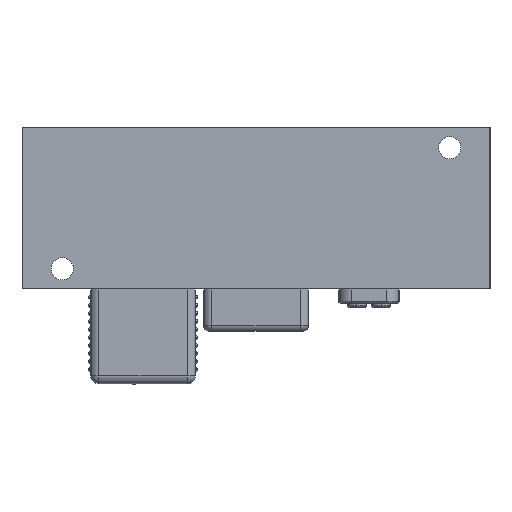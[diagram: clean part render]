
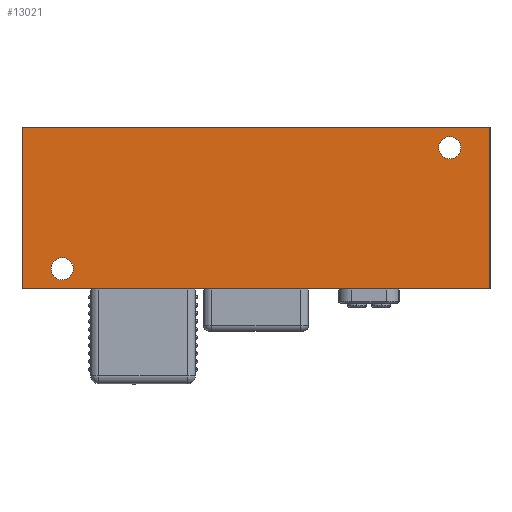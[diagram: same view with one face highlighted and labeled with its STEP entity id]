
A CAD part, front view. The second image highlights one B-rep face of the part: STEP entity #13021.
In plain terms, the highlighted planar face has unit normal (0, -1, 0).
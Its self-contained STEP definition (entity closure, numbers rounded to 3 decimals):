
#147 = CARTESIAN_POINT ( 'NONE',  ( -58., -22.5, -20. ) ) ;
#303 = LINE ( 'NONE', #6047, #20020 ) ;
#351 = CARTESIAN_POINT ( 'NONE',  ( 58., -22.5, -20. ) ) ;
#470 = EDGE_CURVE ( 'NONE', #5407, #5494, #5555, .T. ) ;
#744 = CARTESIAN_POINT ( 'NONE',  ( -58., -22.5, -20. ) ) ;
#787 = CARTESIAN_POINT ( 'NONE',  ( 58., -22.5, 20. ) ) ;
#819 = LINE ( 'NONE', #12599, #12562 ) ;
#1895 = CIRCLE ( 'NONE', #5023, 2.75 ) ;
#1967 = CARTESIAN_POINT ( 'NONE',  ( -58., -22.5, 20. ) ) ;
#2246 = VERTEX_POINT ( 'NONE', #147 ) ;
#2468 = CARTESIAN_POINT ( 'NONE',  ( 58., -22.5, 20. ) ) ;
#2493 = DIRECTION ( 'NONE',  ( 1., 0., 0. ) ) ;
#3235 = DIRECTION ( 'NONE',  ( 0., 0., 1. ) ) ;
#3770 = FACE_BOUND ( 'NONE', #19378, .T. ) ;
#4837 = CARTESIAN_POINT ( 'NONE',  ( -48., -22.5, -12.25 ) ) ;
#5023 = AXIS2_PLACEMENT_3D ( 'NONE', #15896, #6305, #3235 ) ;
#5407 = VERTEX_POINT ( 'NONE', #19366 ) ;
#5494 = VERTEX_POINT ( 'NONE', #8680 ) ;
#5555 = CIRCLE ( 'NONE', #7953, 2.75 ) ;
#5610 = ORIENTED_EDGE ( 'NONE', *, *, #18553, .F. ) ;
#5882 = VERTEX_POINT ( 'NONE', #4837 ) ;
#5979 = DIRECTION ( 'NONE',  ( 1., 0., 0. ) ) ;
#6047 = CARTESIAN_POINT ( 'NONE',  ( -58., -22.5, 20. ) ) ;
#6247 = DIRECTION ( 'NONE',  ( 0., 1., 0. ) ) ;
#6305 = DIRECTION ( 'NONE',  ( 0., 1., 0. ) ) ;
#6626 = VECTOR ( 'NONE', #2493, 1000. ) ;
#6870 = DIRECTION ( 'NONE',  ( 0., 1., 0. ) ) ;
#6995 = ORIENTED_EDGE ( 'NONE', *, *, #19666, .T. ) ;
#7027 = EDGE_LOOP ( 'NONE', ( #19207, #5610, #8584, #6995 ) ) ;
#7165 = ORIENTED_EDGE ( 'NONE', *, *, #13232, .T. ) ;
#7434 = CARTESIAN_POINT ( 'NONE',  ( -48., -22.5, -15. ) ) ;
#7953 = AXIS2_PLACEMENT_3D ( 'NONE', #17719, #14651, #8188 ) ;
#7982 = PLANE ( 'NONE',  #16716 ) ;
#8016 = FACE_OUTER_BOUND ( 'NONE', #7027, .T. ) ;
#8080 = ORIENTED_EDGE ( 'NONE', *, *, #17078, .T. ) ;
#8188 = DIRECTION ( 'NONE',  ( 0., 0., 1. ) ) ;
#8584 = ORIENTED_EDGE ( 'NONE', *, *, #18960, .F. ) ;
#8680 = CARTESIAN_POINT ( 'NONE',  ( 48., -22.5, 17.75 ) ) ;
#8817 = LINE ( 'NONE', #787, #15827 ) ;
#9020 = DIRECTION ( 'NONE',  ( 0., 0., 1. ) ) ;
#9100 = CIRCLE ( 'NONE', #10773, 2.75 ) ;
#9700 = VERTEX_POINT ( 'NONE', #351 ) ;
#9713 = DIRECTION ( 'NONE',  ( 0., 0., -1. ) ) ;
#10057 = EDGE_CURVE ( 'NONE', #2246, #9700, #10359, .T. ) ;
#10156 = EDGE_LOOP ( 'NONE', ( #8080, #18492 ) ) ;
#10359 = LINE ( 'NONE', #744, #6626 ) ;
#10773 = AXIS2_PLACEMENT_3D ( 'NONE', #7434, #18795, #9020 ) ;
#12290 = VERTEX_POINT ( 'NONE', #1967 ) ;
#12562 = VECTOR ( 'NONE', #9713, 1000. ) ;
#12599 = CARTESIAN_POINT ( 'NONE',  ( -58., -22.5, 20. ) ) ;
#12703 = AXIS2_PLACEMENT_3D ( 'NONE', #16529, #6870, #18061 ) ;
#13021 = ADVANCED_FACE ( 'NONE', ( #3770, #18269, #8016 ), #7982, .F. ) ;
#13232 = EDGE_CURVE ( 'NONE', #5494, #5407, #18255, .T. ) ;
#14509 = CARTESIAN_POINT ( 'NONE',  ( -48., -22.5, -17.75 ) ) ;
#14651 = DIRECTION ( 'NONE',  ( 0., 1., 0. ) ) ;
#15196 = DIRECTION ( 'NONE',  ( 0., 0., -1. ) ) ;
#15827 = VECTOR ( 'NONE', #15196, 1000. ) ;
#15896 = CARTESIAN_POINT ( 'NONE',  ( -48., -22.5, -15. ) ) ;
#16529 = CARTESIAN_POINT ( 'NONE',  ( 48., -22.5, 15. ) ) ;
#16716 = AXIS2_PLACEMENT_3D ( 'NONE', #17365, #6247, #20471 ) ;
#17078 = EDGE_CURVE ( 'NONE', #5882, #20305, #9100, .T. ) ;
#17266 = EDGE_CURVE ( 'NONE', #20305, #5882, #1895, .T. ) ;
#17365 = CARTESIAN_POINT ( 'NONE',  ( -58., -22.5, 20. ) ) ;
#17675 = VERTEX_POINT ( 'NONE', #2468 ) ;
#17719 = CARTESIAN_POINT ( 'NONE',  ( 48., -22.5, 15. ) ) ;
#18061 = DIRECTION ( 'NONE',  ( 0., 0., 1. ) ) ;
#18255 = CIRCLE ( 'NONE', #12703, 2.75 ) ;
#18269 = FACE_BOUND ( 'NONE', #10156, .T. ) ;
#18492 = ORIENTED_EDGE ( 'NONE', *, *, #17266, .T. ) ;
#18553 = EDGE_CURVE ( 'NONE', #17675, #9700, #8817, .T. ) ;
#18795 = DIRECTION ( 'NONE',  ( 0., 1., 0. ) ) ;
#18904 = ORIENTED_EDGE ( 'NONE', *, *, #470, .T. ) ;
#18960 = EDGE_CURVE ( 'NONE', #12290, #17675, #303, .T. ) ;
#19207 = ORIENTED_EDGE ( 'NONE', *, *, #10057, .T. ) ;
#19366 = CARTESIAN_POINT ( 'NONE',  ( 48., -22.5, 12.25 ) ) ;
#19378 = EDGE_LOOP ( 'NONE', ( #7165, #18904 ) ) ;
#19666 = EDGE_CURVE ( 'NONE', #12290, #2246, #819, .T. ) ;
#20020 = VECTOR ( 'NONE', #5979, 1000. ) ;
#20305 = VERTEX_POINT ( 'NONE', #14509 ) ;
#20471 = DIRECTION ( 'NONE',  ( 0., 0., 1. ) ) ;
